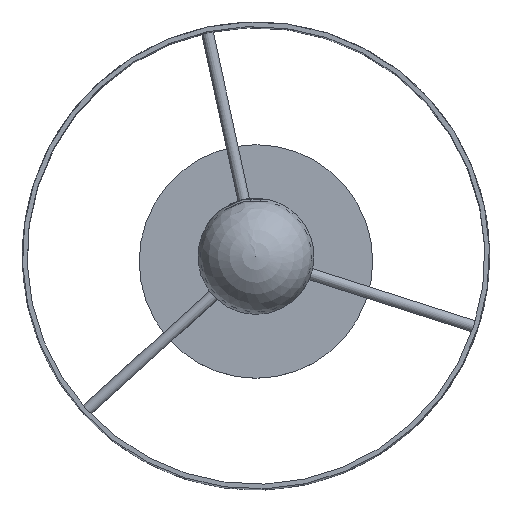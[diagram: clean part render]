
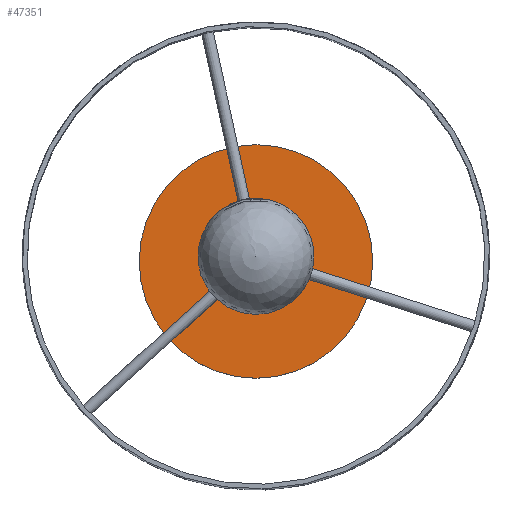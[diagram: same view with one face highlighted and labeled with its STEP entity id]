
A CAD part, top view. The second image highlights one B-rep face of the part: STEP entity #47351.
In plain terms, the highlighted planar face has unit normal (0, 0, 1).
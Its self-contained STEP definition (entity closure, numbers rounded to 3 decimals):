
#9458=FACE_BOUND('',#13045,.T.);
#10662=FACE_OUTER_BOUND('',#13044,.T.);
#13044=EDGE_LOOP('',(#30805));
#13045=EDGE_LOOP('',(#30806));
#16617=CIRCLE('',#49794,2.5);
#16618=CIRCLE('',#49796,50.);
#18988=VERTEX_POINT('',#68763);
#18989=VERTEX_POINT('',#68766);
#23717=EDGE_CURVE('',#18988,#18988,#16617,.T.);
#23718=EDGE_CURVE('',#18989,#18989,#16618,.T.);
#30805=ORIENTED_EDGE('',*,*,#23718,.T.);
#30806=ORIENTED_EDGE('',*,*,#23717,.T.);
#44962=PLANE('',#49799);
#47351=ADVANCED_FACE('',(#10662,#9458),#44962,.T.);
#49794=AXIS2_PLACEMENT_3D('',#68764,#54557,#54558);
#49796=AXIS2_PLACEMENT_3D('',#68767,#54561,#54562);
#49799=AXIS2_PLACEMENT_3D('',#68771,#54567,#54568);
#54557=DIRECTION('center_axis',(0.,0.,-1.));
#54558=DIRECTION('ref_axis',(-1.,0.,0.));
#54561=DIRECTION('center_axis',(0.,0.,1.));
#54562=DIRECTION('ref_axis',(-1.,0.,0.));
#54567=DIRECTION('center_axis',(0.,0.,1.));
#54568=DIRECTION('ref_axis',(1.,0.,0.));
#68763=CARTESIAN_POINT('',(2.5,0.,10.));
#68764=CARTESIAN_POINT('Origin',(0.,0.,10.));
#68766=CARTESIAN_POINT('',(50.,0.,10.));
#68767=CARTESIAN_POINT('Origin',(0.,0.,10.));
#68771=CARTESIAN_POINT('Origin',(0.,0.,10.));
